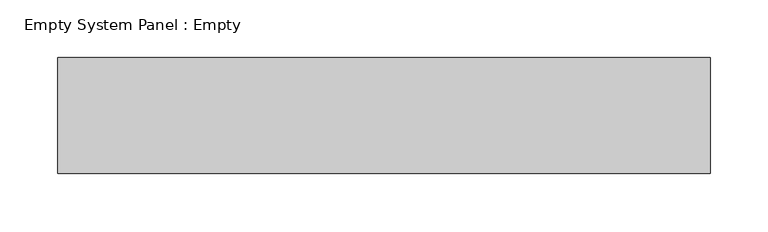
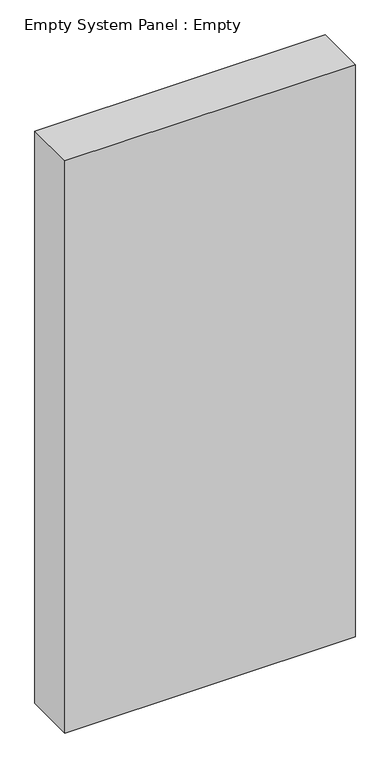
"""IFC4 building model written with IfcOpenShell, lengths in millimetres: plate geometry, Empty System Panel : Empty."""

from ifc_helpers import new_model, si_unit, origin, origin_with_axes, place, context, project, spatial, polyline, outline, extrude, source, transform, mapped, element, save


def empty_system_panel_empty_753c3ce6(model_context):
    return source(origin(), model_context, "Body", "SweptSolid", [
        extrude(outline(polyline([(281.25, -50.0), (-281.25, -50.0), (-281.25, 50.0), (281.25, 50.0), (281.25, -50.0)])), origin_with_axes(), (0.0, 0.0, 1.0), 1172.5),
    ])


if __name__ == "__main__":
    model = new_model("IFC4")
    model_context = context("Model", 3, world=origin())
    ifc_project = project(units=[si_unit("LENGTHUNIT", "METRE", prefix="MILLI")], contexts=[model_context])
    site = spatial("IfcSite", under=ifc_project)
    building = spatial("IfcBuilding", under=site)
    placement = place(None, origin())
    empty_system_panel_empty_shape = empty_system_panel_empty_753c3ce6(model_context)
    element("IfcPlate", 1, ObjectType="Empty System Panel : Empty", at=placement, inside=building, context=model_context, shape_type="MappedRepresentation", body=[
        mapped(empty_system_panel_empty_shape, transform((0.0, 0.0, 0.0), x_axis=(1.0, 0.0, 0.0), y_axis=(0.0, 1.0, 0.0), z_axis=(0.0, 0.0, 1.0))),
    ])
    save(model, "model.ifc")
